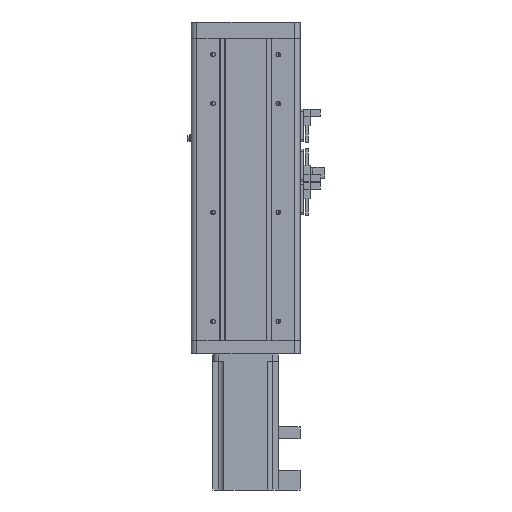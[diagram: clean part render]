
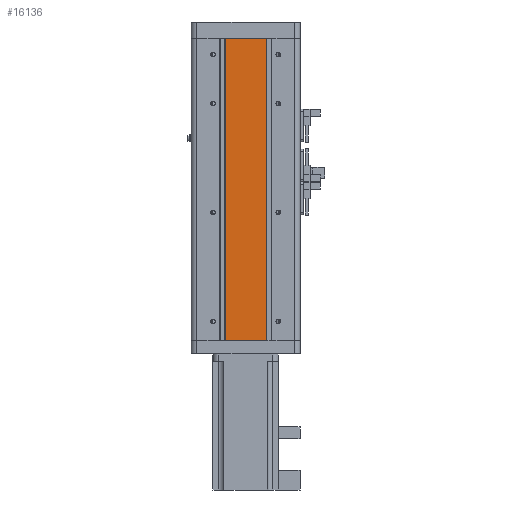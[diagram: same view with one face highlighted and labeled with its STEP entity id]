
A CAD part, front view. The second image highlights one B-rep face of the part: STEP entity #16136.
In plain terms, the highlighted planar face has unit normal (0, -1, 0).
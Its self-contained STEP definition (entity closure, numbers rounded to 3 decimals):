
#16115 = VERTEX_POINT ( 'NONE', #19824 ) ;
#16117 = EDGE_CURVE ( 'NONE', #16115, #16118, #19823, .T. ) ;
#16118 = VERTEX_POINT ( 'NONE', #19819 ) ;
#16121 = EDGE_CURVE ( 'NONE', #16140, #16144, #19816, .T. ) ;
#16136 = ADVANCED_FACE ( 'NONE', ( #19858 ), #19843, .F. ) ;
#16137 = EDGE_LOOP ( 'NONE', ( #16138, #16141, #16142, #16145 ) ) ;
#16138 = ORIENTED_EDGE ( 'NONE', *, *, #16139, .F. ) ;
#16139 = EDGE_CURVE ( 'NONE', #16118, #16140, #19838, .T. ) ;
#16140 = VERTEX_POINT ( 'NONE', #19690 ) ;
#16141 = ORIENTED_EDGE ( 'NONE', *, *, #16117, .F. ) ;
#16142 = ORIENTED_EDGE ( 'NONE', *, *, #16143, .T. ) ;
#16143 = EDGE_CURVE ( 'NONE', #16115, #16144, #19689, .T. ) ;
#16144 = VERTEX_POINT ( 'NONE', #19685 ) ;
#16145 = ORIENTED_EDGE ( 'NONE', *, *, #16121, .F. ) ;
#19685 = CARTESIAN_POINT ( 'NONE',  ( -25.17, -29.672, 278. ) ) ;
#19686 = DIRECTION ( 'NONE',  ( -1., 0., 0. ) ) ;
#19687 = VECTOR ( 'NONE', #19686, 1000. ) ;
#19688 = CARTESIAN_POINT ( 'NONE',  ( -51.27, -29.672, 278. ) ) ;
#19689 = LINE ( 'NONE', #19688, #19687 ) ;
#19690 = CARTESIAN_POINT ( 'NONE',  ( -25.17, -29.672, 0. ) ) ;
#19691 = DIRECTION ( 'NONE',  ( -1., 0., 0. ) ) ;
#19813 = DIRECTION ( 'NONE',  ( 0., 0., 1. ) ) ;
#19814 = VECTOR ( 'NONE', #19813, 1000. ) ;
#19815 = CARTESIAN_POINT ( 'NONE',  ( -25.17, -29.672, 278. ) ) ;
#19816 = LINE ( 'NONE', #19815, #19814 ) ;
#19819 = CARTESIAN_POINT ( 'NONE',  ( 12.63, -29.672, 0. ) ) ;
#19820 = DIRECTION ( 'NONE',  ( 0., 0., -1. ) ) ;
#19821 = VECTOR ( 'NONE', #19820, 1000. ) ;
#19822 = CARTESIAN_POINT ( 'NONE',  ( 12.63, -29.672, 278. ) ) ;
#19823 = LINE ( 'NONE', #19822, #19821 ) ;
#19824 = CARTESIAN_POINT ( 'NONE',  ( 12.63, -29.672, 278. ) ) ;
#19836 = VECTOR ( 'NONE', #19691, 1000. ) ;
#19837 = CARTESIAN_POINT ( 'NONE',  ( -45.27, -29.672, 0. ) ) ;
#19838 = LINE ( 'NONE', #19837, #19836 ) ;
#19839 = DIRECTION ( 'NONE',  ( -1., 0., 0. ) ) ;
#19840 = DIRECTION ( 'NONE',  ( 0., 1., 0. ) ) ;
#19841 = CARTESIAN_POINT ( 'NONE',  ( -51.27, -29.672, 0. ) ) ;
#19842 = AXIS2_PLACEMENT_3D ( 'NONE', #19841, #19840, #19839 ) ;
#19843 = PLANE ( 'NONE',  #19842 ) ;
#19858 = FACE_OUTER_BOUND ( 'NONE', #16137, .T. ) ;
